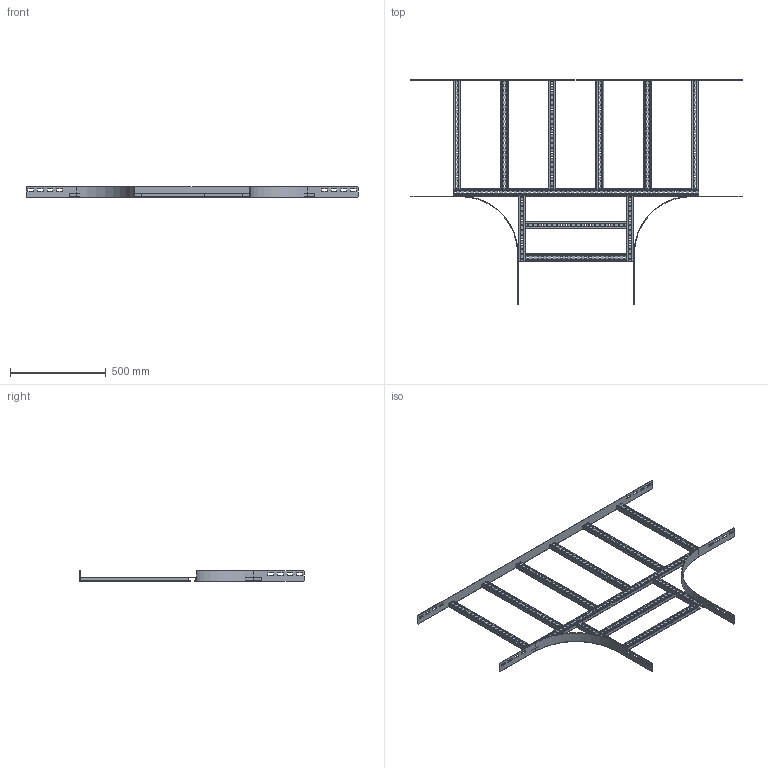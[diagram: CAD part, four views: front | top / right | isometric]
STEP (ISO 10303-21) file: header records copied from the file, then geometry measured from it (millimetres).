
FILE_DESCRIPTION(('Creo Elements/Direct Modeling STEP Export'),'2;1');
FILE_NAME('//pserver/office/EK/ME10-3D/3D-output/WPTP06-60-30-HDG.stp','2019-08-14T 9:46:43',(''),(''),'PTC Creo Elements/Direct Modeling STEP processor for AP214 (Solid Model)','PTC Creo Elements/Direct Modeling 19.0C 15-Aug-2015 (C) Parametric Technology GmbH','');
FILE_SCHEMA(('AUTOMOTIVE_DESIGN { 1 0 10303 214 1 1 1 1 }'));
Length unit declared in the file: millimetre
Products named in the file (8): WPHBI_06-300.1; WPKSP1_300-60; WPKSP2_300; WPKS40; WPKS60.1; WPTPS_60-600-300; WPTPS60.2.1.1.1; WPTP06-60-30-HDG
Assembly tree (16 placements, depth 2):
  WPTP06-60-30-HDG
    WPTPS60.2.1.1.1  x6
    WPTPS_60-600-300
    WPKS40  x2
    WPKS60.1  x2
    WPKSP2_300  x2
    WPKSP1_300-60
    WPHBI_06-300.1  x2
Bounding box: 1735 x 1173 x 55 mm (x, y, z)
Volume: 1639690.4 mm3; surface area: 1863802.2 mm2
Topology: 16 solids, 16 shells, 1798 faces, 5298 edges, 3532 vertices
Faces by surface type: plane 988, cylinder 810
Entity records: 26822 total; most frequent: CARTESIAN_POINT 4600, ORIENTED_EDGE 4596, DIRECTION 4532, EDGE_CURVE 2298, VECTOR 1604, LINE 1604, VERTEX_POINT 1532, AXIS2_PLACEMENT_3D 1464
